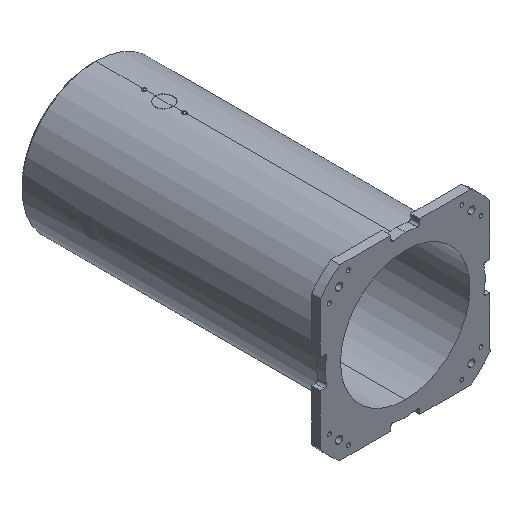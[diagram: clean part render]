
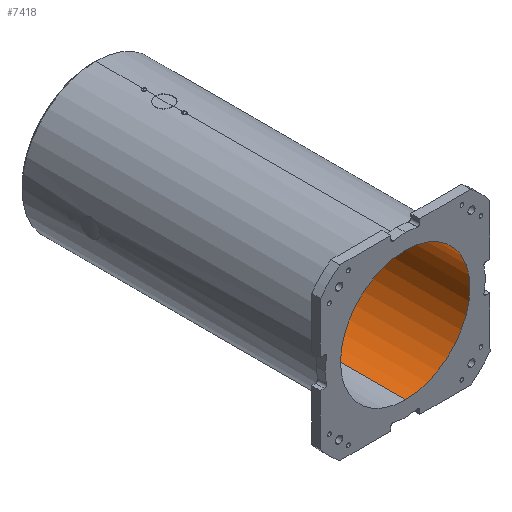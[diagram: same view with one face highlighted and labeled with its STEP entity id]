
A CAD part, isometric view. The second image highlights one B-rep face of the part: STEP entity #7418.
In plain terms, the highlighted cylindrical face has radius 145 mm (diameter 290 mm), a partial arc.
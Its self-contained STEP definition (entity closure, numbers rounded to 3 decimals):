
#632 = CARTESIAN_POINT ( 'NONE',  ( 0., 0., -145. ) ) ;
#1155 = VECTOR ( 'NONE', #12345, 1000. ) ;
#1423 = CARTESIAN_POINT ( 'NONE',  ( 0., 0., 0. ) ) ;
#1619 = EDGE_CURVE ( 'NONE', #9637, #9260, #6356, .T. ) ;
#1801 = ORIENTED_EDGE ( 'NONE', *, *, #12286, .F. ) ;
#1831 = ORIENTED_EDGE ( 'NONE', *, *, #1619, .T. ) ;
#2306 = CYLINDRICAL_SURFACE ( 'NONE', #11361, 145. ) ;
#2308 = CARTESIAN_POINT ( 'NONE',  ( 0., 0., 145. ) ) ;
#3058 = AXIS2_PLACEMENT_3D ( 'NONE', #5315, #9212, #6070 ) ;
#3369 = CARTESIAN_POINT ( 'NONE',  ( 0., 0., 145. ) ) ;
#3604 = LINE ( 'NONE', #632, #1155 ) ;
#5315 = CARTESIAN_POINT ( 'NONE',  ( 0., 682., 0. ) ) ;
#5660 = VERTEX_POINT ( 'NONE', #7237 ) ;
#6070 = DIRECTION ( 'NONE',  ( 0., 0., 1. ) ) ;
#6159 = FACE_OUTER_BOUND ( 'NONE', #7624, .T. ) ;
#6217 = DIRECTION ( 'NONE',  ( 0., 1., 0. ) ) ;
#6219 = DIRECTION ( 'NONE',  ( 0., 1., 0. ) ) ;
#6356 = CIRCLE ( 'NONE', #3058, 145. ) ;
#6483 = DIRECTION ( 'NONE',  ( 0., 1., 0. ) ) ;
#6794 = VECTOR ( 'NONE', #6219, 1000. ) ;
#7237 = CARTESIAN_POINT ( 'NONE',  ( 0., 0., -145. ) ) ;
#7418 = ADVANCED_FACE ( 'NONE', ( #6159 ), #2306, .F. ) ;
#7594 = CIRCLE ( 'NONE', #8225, 145. ) ;
#7624 = EDGE_LOOP ( 'NONE', ( #1801, #12414, #9687, #1831 ) ) ;
#8225 = AXIS2_PLACEMENT_3D ( 'NONE', #11348, #6483, #10198 ) ;
#8316 = CARTESIAN_POINT ( 'NONE',  ( 0., 682., 145. ) ) ;
#9059 = EDGE_CURVE ( 'NONE', #9495, #9637, #11084, .T. ) ;
#9212 = DIRECTION ( 'NONE',  ( 0., 1., 0. ) ) ;
#9260 = VERTEX_POINT ( 'NONE', #10325 ) ;
#9495 = VERTEX_POINT ( 'NONE', #3369 ) ;
#9637 = VERTEX_POINT ( 'NONE', #8316 ) ;
#9687 = ORIENTED_EDGE ( 'NONE', *, *, #9059, .T. ) ;
#10117 = DIRECTION ( 'NONE',  ( 0., 0., 1. ) ) ;
#10170 = EDGE_CURVE ( 'NONE', #9495, #5660, #7594, .T. ) ;
#10198 = DIRECTION ( 'NONE',  ( 0., 0., 1. ) ) ;
#10325 = CARTESIAN_POINT ( 'NONE',  ( 0., 682., -145. ) ) ;
#11084 = LINE ( 'NONE', #2308, #6794 ) ;
#11348 = CARTESIAN_POINT ( 'NONE',  ( 0., 0., 0. ) ) ;
#11361 = AXIS2_PLACEMENT_3D ( 'NONE', #1423, #6217, #10117 ) ;
#12286 = EDGE_CURVE ( 'NONE', #5660, #9260, #3604, .T. ) ;
#12345 = DIRECTION ( 'NONE',  ( 0., 1., 0. ) ) ;
#12414 = ORIENTED_EDGE ( 'NONE', *, *, #10170, .F. ) ;
